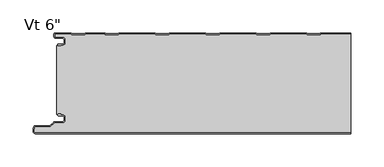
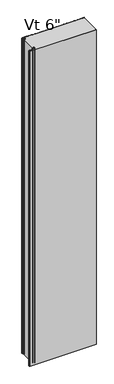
"""IFC4 building model written with IfcOpenShell, lengths in millimetres: plate geometry."""

from ifc_helpers import new_model, si_unit, point, frame, frame_2d, origin, origin_with_axes, place, context, project, spatial, polyline, circle_curve, trimmed, segment, composite_curve, outline, extrude, source, transform, mapped, element, save
from ifc_brep_helpers import plane_surface, cylinder_surface, revolved_surface, advanced_brep


def plate_05db5e8a(model_context):
    return source(origin(), model_context, "Body", "SolidModel", [
        advanced_brep(
        [(-219.9686911, -17.0015243, 2400.0), (-220.9686883, -18.0015275, 2400.0), (-219.9686911, -19.0015188, 2400.0), (-215.9684874, -19.0015188, 2400.0), (-215.9684874, -18.0015243, 2400.0), (-213.2762776, -18.0015243, 2400.0), (-209.9762819, -14.7015286, 2400.0), (-209.9762819, -10.3015374, 2400.0), (-213.2762774, -7.0015419, 2400.0), (-223.6962563, -7.0015419, 2400.0), (-225.4662505, -5.2315477, 2400.0), (-225.4662505, -1.0, 2400.0), (-200.9659739, -1.0, 2400.0), (-199.5803313, -2.2002391, 2400.0), (-180.205165, -2.2002391, 2400.0), (-178.819532, -1.0000084, 2400.0), (-150.1661166, -1.0000084, 2400.0), (-148.7804837, -2.2002391, 2400.0), (-129.4053174, -2.2002391, 2400.0), (-128.0196844, -1.0000084, 2400.0), (-73.966269, -1.0000084, 2400.0), (-72.5806361, -2.2002391, 2400.0), (-53.2054698, -2.2002391, 2400.0), (-51.8198368, -1.0000084, 2400.0), (2.2335786, -1.0000084, 2400.0), (3.6192115, -2.2002391, 2400.0), (22.9943778, -2.2002391, 2400.0), (24.3800108, -1.0000084, 2400.0), (78.4334262, -1.0000084, 2400.0), (79.8190591, -2.2002391, 2400.0), (99.1942254, -2.2002391, 2400.0), (100.5798584, -1.0000084, 2400.0), (154.6332738, -1.0000084, 2400.0), (156.0189067, -2.2002391, 2400.0), (175.394073, -2.2002391, 2400.0), (176.779706, -1.0000084, 2400.0), (221.9999998, -1.0000084, 2400.0), (221.9999998, -8.4e-06, 2400.0), (176.9288571, -8.4e-06, 2400.0), (176.0122402, -0.3417969, 2400.0), (175.0211926, -1.2002391, 2400.0), (156.3917872, -1.2002391, 2400.0), (155.4007395, -0.3417969, 2400.0), (154.4841226, -8.4e-06, 2400.0), (100.7290095, -8.4e-06, 2400.0), (99.8123926, -0.3417969, 2400.0), (98.821345, -1.2002391, 2400.0), (80.1919396, -1.2002391, 2400.0), (79.2008919, -0.3417969, 2400.0), (78.284275, -8.4e-06, 2400.0), (24.5291619, -8.4e-06, 2400.0), (23.612545, -0.3417969, 2400.0), (22.6214974, -1.2002391, 2400.0), (3.992092, -1.2002391, 2400.0), (3.0010443, -0.3417969, 2400.0), (2.0844274, -8.4e-06, 2400.0), (-51.6706857, -8.4e-06, 2400.0), (-52.5873026, -0.3417969, 2400.0), (-53.5783502, -1.2002391, 2400.0), (-72.2077556, -1.2002391, 2400.0), (-73.1988033, -0.3417969, 2400.0), (-74.1154202, -8.4e-06, 2400.0), (-127.8705333, -8.4e-06, 2400.0), (-128.7871502, -0.3417969, 2400.0), (-129.7781978, -1.2002391, 2400.0), (-148.4076032, -1.2002391, 2400.0), (-149.3986509, -0.3417969, 2400.0), (-150.3152678, -8.4e-06, 2400.0), (-178.6703809, -8.4e-06, 2400.0), (-179.5869978, -0.3417969, 2400.0), (-180.5780454, -1.2002391, 2400.0), (-199.2074508, -1.2002391, 2400.0), (-200.1984985, -0.3417969, 2400.0), (-201.1152068, -8.4e-06, 2400.0), (-225.0662544, 0.0, 2400.0), (-226.4662505, -1.3999962, 2400.0), (-226.4662505, -5.2315477, 2400.0), (-223.6962563, -8.0015419, 2400.0), (-213.2762774, -8.0015419, 2400.0), (-210.9762819, -10.3015374, 2400.0), (-210.9762819, -14.7015286, 2400.0), (-213.2762776, -17.0015243, 2400.0), (-219.9686911, -17.0015243, 0.0), (-213.2762776, -17.0015243, 0.0), (-210.9762819, -14.7015286, 0.0), (-210.9762819, -10.3015374, 0.0), (-213.2762774, -8.0015419, 0.0), (-223.6962563, -8.0015419, 0.0), (-226.4662505, -5.2315477, 0.0), (-226.4662505, -1.3999962, 0.0), (-225.0662544, 0.0, 0.0), (-201.1151154, 0.0, 0.0), (-200.1984985, -0.3417969, 0.0), (-199.2074508, -1.2002391, 0.0), (-180.5780454, -1.2002391, 0.0), (-179.5869978, -0.3417969, 0.0), (-178.6703809, -8.4e-06, 0.0), (-150.3152678, -8.4e-06, 0.0), (-149.3986509, -0.3417969, 0.0), (-148.4076032, -1.2002391, 0.0), (-129.7781978, -1.2002391, 0.0), (-128.7871502, -0.3417969, 0.0), (-127.8705333, -8.4e-06, 0.0), (-74.1154202, -8.4e-06, 0.0), (-73.1988033, -0.3417969, 0.0), (-72.2077556, -1.2002391, 0.0), (-53.5783502, -1.2002391, 0.0), (-52.5873026, -0.3417969, 0.0), (-51.6706857, -8.4e-06, 0.0), (2.0844274, -8.4e-06, 0.0), (3.0010443, -0.3417969, 0.0), (3.992092, -1.2002391, 0.0), (22.6214974, -1.2002391, 0.0), (23.612545, -0.3417969, 0.0), (24.5291619, -8.4e-06, 0.0), (78.284275, -8.4e-06, 0.0), (79.2008919, -0.3417969, 0.0), (80.1919396, -1.2002391, 0.0), (98.821345, -1.2002391, 0.0), (99.8123926, -0.3417969, 0.0), (100.7290095, -8.4e-06, 0.0), (154.4841226, -8.4e-06, 0.0), (155.4007395, -0.3417969, 0.0), (156.3917872, -1.2002391, 0.0), (175.0211926, -1.2002391, 0.0), (176.0122402, -0.3417969, 0.0), (176.9288571, -8.4e-06, 0.0), (221.9999998, -8.4e-06, 0.0), (221.9999998, -1.0000084, 0.0), (176.779706, -1.0000084, 0.0), (175.394073, -2.2002391, 0.0), (156.0189067, -2.2002391, 0.0), (154.6332738, -1.0000084, 0.0), (100.5798584, -1.0000084, 0.0), (99.1942254, -2.2002391, 0.0), (79.8190591, -2.2002391, 0.0), (78.4334262, -1.0000084, 0.0), (24.3800108, -1.0000084, 0.0), (22.9943778, -2.2002391, 0.0), (3.6192115, -2.2002391, 0.0), (2.2335786, -1.0000084, 0.0), (-51.8198368, -1.0000084, 0.0), (-53.2054698, -2.2002391, 0.0), (-72.5806361, -2.2002391, 0.0), (-73.966269, -1.0000084, 0.0), (-128.0196844, -1.0000084, 0.0), (-129.4053174, -2.2002391, 0.0), (-148.7804837, -2.2002391, 0.0), (-150.1661166, -1.0000084, 0.0), (-178.819532, -1.0000084, 0.0), (-180.205165, -2.2002391, 0.0), (-199.5803313, -2.2002391, 0.0), (-200.9659739, -1.0, 0.0), (-225.4662505, -1.0, 0.0), (-225.4662505, -5.2315477, 0.0), (-223.6962563, -7.0015419, 0.0), (-213.2762774, -7.0015419, 0.0), (-209.9762819, -10.3015374, 0.0), (-209.9762819, -14.7015286, 0.0), (-213.2762776, -18.0015243, 0.0), (-215.9684874, -18.0015243, 0.0), (-215.9684874, -19.0015188, 0.0), (-219.9686911, -19.0015188, 0.0), (-220.9686883, -18.0015275, 0.0)],
        [
            (0, 1, circle_curve(frame((-219.9686911, -18.0015215, 2400.0), z_axis=(0.0, 0.0, 1.0), x_axis=(1.0, 0.0, 0.0)), 0.9999973)),
            (1, 2, circle_curve(frame((-219.9686911, -18.0015216, 2400.0), z_axis=(0.0, 0.0, 1.0), x_axis=(1.0, 0.0, 0.0)), 0.9999972)),
            (2, 3),
            (3, 4),
            (4, 5),
            (5, 6, circle_curve(frame((-213.2762776, -14.7015286, 2400.0), z_axis=(0.0, 0.0, 1.0), x_axis=(1.0, 0.0, 0.0)), 3.2999957)),
            (6, 7),
            (7, 8, circle_curve(frame((-213.2762774, -10.3015374, 2400.0), z_axis=(0.0, 0.0, 1.0), x_axis=(1.0, 0.0, 0.0)), 3.2999955)),
            (8, 9),
            (9, 10, circle_curve(frame((-223.6962563, -5.2315477, 2400.0), z_axis=(0.0, 0.0, -1.0), x_axis=(1.0, 0.0, 0.0)), 1.7699942)),
            (10, 11),
            (11, 12),
            (12, 13),
            (13, 14),
            (14, 15),
            (15, 16),
            (16, 17),
            (17, 18),
            (18, 19),
            (19, 20),
            (20, 21),
            (21, 22),
            (22, 23),
            (23, 24),
            (24, 25),
            (25, 26),
            (26, 27),
            (27, 28),
            (28, 29),
            (29, 30),
            (30, 31),
            (31, 32),
            (32, 33),
            (33, 34),
            (34, 35),
            (35, 36),
            (36, 37),
            (37, 38),
            (38, 39, circle_curve(frame((176.9288571, -1.4000056, 2400.0), z_axis=(0.0, 0.0, 1.0), x_axis=(1.0, 0.0, 0.0)), 1.3999972)),
            (39, 40),
            (40, 41),
            (41, 42),
            (42, 43, circle_curve(frame((154.4841226, -1.4000056, 2400.0), z_axis=(0.0, 0.0, 1.0), x_axis=(1.0, 0.0, 0.0)), 1.3999972)),
            (43, 44),
            (44, 45, circle_curve(frame((100.7290095, -1.4000056, 2400.0), z_axis=(0.0, 0.0, 1.0), x_axis=(1.0, 0.0, 0.0)), 1.3999972)),
            (45, 46),
            (46, 47),
            (47, 48),
            (48, 49, circle_curve(frame((78.284275, -1.4000056, 2400.0), z_axis=(0.0, 0.0, 1.0), x_axis=(1.0, 0.0, 0.0)), 1.3999972)),
            (49, 50),
            (50, 51, circle_curve(frame((24.5291619, -1.4000056, 2400.0), z_axis=(0.0, 0.0, 1.0), x_axis=(1.0, 0.0, 0.0)), 1.3999972)),
            (51, 52),
            (52, 53),
            (53, 54),
            (54, 55, circle_curve(frame((2.0844274, -1.4000056, 2400.0), z_axis=(0.0, 0.0, 1.0), x_axis=(1.0, 0.0, 0.0)), 1.3999972)),
            (55, 56),
            (56, 57, circle_curve(frame((-51.6706857, -1.4000056, 2400.0), z_axis=(0.0, 0.0, 1.0), x_axis=(1.0, 0.0, 0.0)), 1.3999972)),
            (57, 58),
            (58, 59),
            (59, 60),
            (60, 61, circle_curve(frame((-74.1154202, -1.4000056, 2400.0), z_axis=(0.0, 0.0, 1.0), x_axis=(1.0, 0.0, 0.0)), 1.3999972)),
            (61, 62),
            (62, 63, circle_curve(frame((-127.8705333, -1.4000056, 2400.0), z_axis=(0.0, 0.0, 1.0), x_axis=(1.0, 0.0, 0.0)), 1.3999972)),
            (63, 64),
            (64, 65),
            (65, 66),
            (66, 67, circle_curve(frame((-150.3152678, -1.4000056, 2400.0), z_axis=(0.0, 0.0, 1.0), x_axis=(1.0, 0.0, 0.0)), 1.3999972)),
            (67, 68),
            (68, 69, circle_curve(frame((-178.6703809, -1.4000056, 2400.0), z_axis=(0.0, 0.0, 1.0), x_axis=(1.0, 0.0, 0.0)), 1.3999972)),
            (69, 70),
            (70, 71),
            (71, 72),
            (72, 73, circle_curve(frame((-201.1151154, -1.4000056, 2400.0), z_axis=(0.0, 0.0, 1.0), x_axis=(1.0, 0.0, 0.0)), 1.3999972)),
            (73, 74),
            (74, 75, circle_curve(frame((-225.0662544, -1.3999962, 2400.0), z_axis=(0.0, 0.0, 1.0), x_axis=(1.0, 0.0, 0.0)), 1.3999962)),
            (75, 76),
            (76, 77, circle_curve(frame((-223.6962563, -5.2315477, 2400.0), z_axis=(0.0, 0.0, 1.0), x_axis=(1.0, 0.0, 0.0)), 2.7699942)),
            (77, 78),
            (78, 79, circle_curve(frame((-213.2762774, -10.3015374, 2400.0), z_axis=(0.0, 0.0, -1.0), x_axis=(1.0, 0.0, 0.0)), 2.2999955)),
            (79, 80),
            (80, 81, circle_curve(frame((-213.2762776, -14.7015286, 2400.0), z_axis=(0.0, 0.0, -1.0), x_axis=(1.0, 0.0, 0.0)), 2.2999957)),
            (81, 0),
            (82, 83),
            (83, 84, circle_curve(frame((-213.2762776, -14.7015286, 0.0), z_axis=(0.0, 0.0, 1.0), x_axis=(1.0, 0.0, 0.0)), 2.2999957)),
            (84, 85),
            (85, 86, circle_curve(frame((-213.2762774, -10.3015374, 0.0), z_axis=(0.0, 0.0, 1.0), x_axis=(1.0, 0.0, 0.0)), 2.2999955)),
            (86, 87),
            (87, 88, circle_curve(frame((-223.6962563, -5.2315477, 0.0), z_axis=(0.0, 0.0, -1.0), x_axis=(1.0, 0.0, 0.0)), 2.7699942)),
            (88, 89),
            (89, 90, circle_curve(frame((-225.0662544, -1.3999962, 0.0), z_axis=(0.0, 0.0, -1.0), x_axis=(1.0, 0.0, 0.0)), 1.3999962)),
            (90, 91),
            (91, 92, circle_curve(frame((-201.1151154, -1.4000056, 0.0), z_axis=(0.0, 0.0, -1.0), x_axis=(1.0, 0.0, 0.0)), 1.3999972)),
            (92, 93),
            (93, 94),
            (94, 95),
            (95, 96, circle_curve(frame((-178.6703809, -1.4000056, 0.0), z_axis=(0.0, 0.0, -1.0), x_axis=(1.0, 0.0, 0.0)), 1.3999972)),
            (96, 97),
            (97, 98, circle_curve(frame((-150.3152678, -1.4000056, 0.0), z_axis=(0.0, 0.0, -1.0), x_axis=(1.0, 0.0, 0.0)), 1.3999972)),
            (98, 99),
            (99, 100),
            (100, 101),
            (101, 102, circle_curve(frame((-127.8705333, -1.4000056, 0.0), z_axis=(0.0, 0.0, -1.0), x_axis=(1.0, 0.0, 0.0)), 1.3999972)),
            (102, 103),
            (103, 104, circle_curve(frame((-74.1154202, -1.4000056, 0.0), z_axis=(0.0, 0.0, -1.0), x_axis=(1.0, 0.0, 0.0)), 1.3999972)),
            (104, 105),
            (105, 106),
            (106, 107),
            (107, 108, circle_curve(frame((-51.6706857, -1.4000056, 0.0), z_axis=(0.0, 0.0, -1.0), x_axis=(1.0, 0.0, 0.0)), 1.3999972)),
            (108, 109),
            (109, 110, circle_curve(frame((2.0844274, -1.4000056, 0.0), z_axis=(0.0, 0.0, -1.0), x_axis=(1.0, 0.0, 0.0)), 1.3999972)),
            (110, 111),
            (111, 112),
            (112, 113),
            (113, 114, circle_curve(frame((24.5291619, -1.4000056, 0.0), z_axis=(0.0, 0.0, -1.0), x_axis=(1.0, 0.0, 0.0)), 1.3999972)),
            (114, 115),
            (115, 116, circle_curve(frame((78.284275, -1.4000056, 0.0), z_axis=(0.0, 0.0, -1.0), x_axis=(1.0, 0.0, 0.0)), 1.3999972)),
            (116, 117),
            (117, 118),
            (118, 119),
            (119, 120, circle_curve(frame((100.7290095, -1.4000056, 0.0), z_axis=(0.0, 0.0, -1.0), x_axis=(1.0, 0.0, 0.0)), 1.3999972)),
            (120, 121),
            (121, 122, circle_curve(frame((154.4841226, -1.4000056, 0.0), z_axis=(0.0, 0.0, -1.0), x_axis=(1.0, 0.0, 0.0)), 1.3999972)),
            (122, 123),
            (123, 124),
            (124, 125),
            (125, 126, circle_curve(frame((176.9288571, -1.4000056, 0.0), z_axis=(0.0, 0.0, -1.0), x_axis=(1.0, 0.0, 0.0)), 1.3999972)),
            (126, 127),
            (127, 128),
            (128, 129),
            (129, 130),
            (130, 131),
            (131, 132),
            (132, 133),
            (133, 134),
            (134, 135),
            (135, 136),
            (136, 137),
            (137, 138),
            (138, 139),
            (139, 140),
            (140, 141),
            (141, 142),
            (142, 143),
            (143, 144),
            (144, 145),
            (145, 146),
            (146, 147),
            (147, 148),
            (148, 149),
            (149, 150),
            (150, 151),
            (151, 152),
            (152, 153),
            (153, 154),
            (154, 155, circle_curve(frame((-223.6962563, -5.2315477, 0.0), z_axis=(0.0, 0.0, 1.0), x_axis=(1.0, 0.0, 0.0)), 1.7699942)),
            (155, 156),
            (156, 157, circle_curve(frame((-213.2762774, -10.3015374, 0.0), z_axis=(0.0, 0.0, -1.0), x_axis=(1.0, 0.0, 0.0)), 3.2999955)),
            (157, 158),
            (158, 159, circle_curve(frame((-213.2762776, -14.7015286, 0.0), z_axis=(0.0, 0.0, -1.0), x_axis=(1.0, 0.0, 0.0)), 3.2999957)),
            (159, 160),
            (160, 161),
            (161, 162),
            (162, 163, circle_curve(frame((-219.9686911, -18.0015216, 0.0), z_axis=(0.0, 0.0, -1.0), x_axis=(1.0, 0.0, 0.0)), 0.9999972)),
            (163, 82, circle_curve(frame((-219.9686911, -18.0015215, 0.0), z_axis=(0.0, 0.0, -1.0), x_axis=(1.0, 0.0, 0.0)), 0.9999973)),
            (36, 128),
            (127, 37),
            (81, 83),
            (82, 0),
            (80, 84),
            (79, 85),
            (78, 86),
            (77, 87),
            (76, 88),
            (75, 89),
            (74, 90),
            (73, 91),
            (72, 92),
            (71, 93),
            (70, 94),
            (69, 95),
            (68, 96),
            (67, 97),
            (66, 98),
            (65, 99),
            (64, 100),
            (63, 101),
            (62, 102),
            (61, 103),
            (60, 104),
            (59, 105),
            (58, 106),
            (57, 107),
            (56, 108),
            (55, 109),
            (54, 110),
            (53, 111),
            (52, 112),
            (51, 113),
            (50, 114),
            (49, 115),
            (48, 116),
            (47, 117),
            (46, 118),
            (45, 119),
            (44, 120),
            (43, 121),
            (42, 122),
            (41, 123),
            (40, 124),
            (39, 125),
            (38, 126),
            (35, 129),
            (34, 130),
            (33, 131),
            (32, 132),
            (31, 133),
            (30, 134),
            (29, 135),
            (28, 136),
            (27, 137),
            (26, 138),
            (25, 139),
            (24, 140),
            (23, 141),
            (22, 142),
            (21, 143),
            (20, 144),
            (19, 145),
            (18, 146),
            (17, 147),
            (16, 148),
            (15, 149),
            (14, 150),
            (13, 151),
            (12, 152),
            (11, 153),
            (10, 154),
            (9, 155),
            (8, 156),
            (7, 157),
            (6, 158),
            (5, 159),
            (4, 160),
            (3, 161),
            (2, 162),
            (1, 163),
        ],
        [
            plane_surface(frame((286.0000002, -8.4e-06, 2400.0), z_axis=(0.0, 0.0, 1.0), x_axis=(0.0, 1.0, 0.0))),
            plane_surface(frame((286.0000002, -8.4e-06, 0.0), z_axis=(0.0, 0.0, -1.0), x_axis=(0.0, 1.0, 0.0))),
            plane_surface(frame((221.9999998, -162.4000084, 2400.0), z_axis=(1.0, 0.0, 0.0), x_axis=(0.0, 0.0, -1.0))),
            plane_surface(frame((-219.9686911, -17.0015243, 2400.0), z_axis=(0.0, 1.0, 0.0), x_axis=(0.0, 0.0, -1.0))),
            revolved_surface(polyline([(-210.97628189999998, -14.7015286, 0.0), (-210.97628189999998, -14.7015286, 2400.0)]), (-213.2762776, -14.7015286, 2400.0), (0.0, 0.0, -1.0)),
            plane_surface(frame((-210.9762819, -14.7015286, 2400.0), z_axis=(-1.0, 0.0, 0.0), x_axis=(0.0, 0.0, -1.0))),
            revolved_surface(polyline([(-210.9762819, -10.3015374, 0.0), (-210.9762819, -10.3015374, 2400.0)]), (-213.2762774, -10.3015374, 2400.0), (0.0, 0.0, -1.0)),
            plane_surface(frame((-213.2762774, -8.0015419, 2400.0), z_axis=(0.0, -1.0, 0.0), x_axis=(0.0, 0.0, -1.0))),
            cylinder_surface(frame((-223.6962563, -5.2315477, 2400.0), z_axis=(0.0, 0.0, 1.0), x_axis=(1.0, 0.0, 0.0)), 2.7699942),
            plane_surface(frame((-226.4662505, -5.2315477, 2400.0), z_axis=(-1.0, 0.0, 0.0), x_axis=(0.0, 0.0, -1.0))),
            cylinder_surface(frame((-225.0662544, -1.3999962, 2400.0), z_axis=(0.0, 0.0, 1.0), x_axis=(1.0, 0.0, 0.0)), 1.3999962),
            plane_surface(frame((-225.0662544, 0.0, 2400.0), z_axis=(0.0, 1.0, 0.0), x_axis=(0.0, 0.0, -1.0))),
            cylinder_surface(frame((-201.1151154, -1.4000056, 2400.0), z_axis=(0.0, 0.0, 1.0), x_axis=(1.0, 0.0, 0.0)), 1.3999972),
            plane_surface(frame((-200.1984985, -0.3417969, 2400.0), z_axis=(0.6547276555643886, 0.755864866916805, 0.0), x_axis=(0.0, 0.0, -1.0))),
            plane_surface(frame((-189.8927481, -1.2002391, 2400.0), z_axis=(0.0, 1.0, 0.0), x_axis=(0.0, 0.0, -1.0))),
            plane_surface(frame((-180.5780454, -1.2002391, 2400.0), z_axis=(-0.6547276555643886, 0.755864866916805, 0.0), x_axis=(0.0, 0.0, -1.0))),
            cylinder_surface(frame((-178.6703809, -1.4000056, 2400.0), z_axis=(0.0, 0.0, 1.0), x_axis=(1.0, 0.0, 0.0)), 1.3999972),
            plane_surface(frame((-178.6703809, -8.4e-06, 2400.0), z_axis=(0.0, 1.0, 0.0), x_axis=(0.0, 0.0, -1.0))),
            cylinder_surface(frame((-150.3152678, -1.4000056, 2400.0), z_axis=(0.0, 0.0, 1.0), x_axis=(1.0, 0.0, 0.0)), 1.3999972),
            plane_surface(frame((-149.3986509, -0.3417969, 2400.0), z_axis=(0.6547276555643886, 0.755864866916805, 0.0), x_axis=(0.0, 0.0, -1.0))),
            plane_surface(frame((-139.0929005, -1.2002391, 2400.0), z_axis=(0.0, 1.0, 0.0), x_axis=(0.0, 0.0, -1.0))),
            plane_surface(frame((-129.7781978, -1.2002391, 2400.0), z_axis=(-0.6547276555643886, 0.755864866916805, 0.0), x_axis=(0.0, 0.0, -1.0))),
            cylinder_surface(frame((-127.8705333, -1.4000056, 2400.0), z_axis=(0.0, 0.0, 1.0), x_axis=(1.0, 0.0, 0.0)), 1.3999972),
            plane_surface(frame((-127.8705333, -8.4e-06, 2400.0), z_axis=(0.0, 1.0, 0.0), x_axis=(0.0, 0.0, -1.0))),
            cylinder_surface(frame((-74.1154202, -1.4000056, 2400.0), z_axis=(0.0, 0.0, 1.0), x_axis=(1.0, 0.0, 0.0)), 1.3999972),
            plane_surface(frame((-73.1988033, -0.3417969, 2400.0), z_axis=(0.6547276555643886, 0.755864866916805, 0.0), x_axis=(0.0, 0.0, -1.0))),
            plane_surface(frame((-62.8930529, -1.2002391, 2400.0), z_axis=(0.0, 1.0, 0.0), x_axis=(0.0, 0.0, -1.0))),
            plane_surface(frame((-53.5783502, -1.2002391, 2400.0), z_axis=(-0.6547276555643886, 0.755864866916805, 0.0), x_axis=(0.0, 0.0, -1.0))),
            cylinder_surface(frame((-51.6706857, -1.4000056, 2400.0), z_axis=(0.0, 0.0, 1.0), x_axis=(1.0, 0.0, 0.0)), 1.3999972),
            plane_surface(frame((-51.6706857, -8.4e-06, 2400.0), z_axis=(0.0, 1.0, 0.0), x_axis=(0.0, 0.0, -1.0))),
            cylinder_surface(frame((2.0844274, -1.4000056, 2400.0), z_axis=(0.0, 0.0, 1.0), x_axis=(1.0, 0.0, 0.0)), 1.3999972),
            plane_surface(frame((3.0010443, -0.3417969, 2400.0), z_axis=(0.6547276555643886, 0.755864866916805, 0.0), x_axis=(0.0, 0.0, -1.0))),
            plane_surface(frame((13.3067947, -1.2002391, 2400.0), z_axis=(0.0, 1.0, 0.0), x_axis=(0.0, 0.0, -1.0))),
            plane_surface(frame((22.6214974, -1.2002391, 2400.0), z_axis=(-0.6547276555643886, 0.755864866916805, 0.0), x_axis=(0.0, 0.0, -1.0))),
            cylinder_surface(frame((24.5291619, -1.4000056, 2400.0), z_axis=(0.0, 0.0, 1.0), x_axis=(1.0, 0.0, 0.0)), 1.3999972),
            plane_surface(frame((24.5291619, -8.4e-06, 2400.0), z_axis=(0.0, 1.0, 0.0), x_axis=(0.0, 0.0, -1.0))),
            cylinder_surface(frame((78.284275, -1.4000056, 2400.0), z_axis=(0.0, 0.0, 1.0), x_axis=(1.0, 0.0, 0.0)), 1.3999972),
            plane_surface(frame((79.2008919, -0.3417969, 2400.0), z_axis=(0.6547276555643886, 0.755864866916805, 0.0), x_axis=(0.0, 0.0, -1.0))),
            plane_surface(frame((89.5066423, -1.2002391, 2400.0), z_axis=(0.0, 1.0, 0.0), x_axis=(0.0, 0.0, -1.0))),
            plane_surface(frame((98.821345, -1.2002391, 2400.0), z_axis=(-0.6547276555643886, 0.755864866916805, 0.0), x_axis=(0.0, 0.0, -1.0))),
            cylinder_surface(frame((100.7290095, -1.4000056, 2400.0), z_axis=(0.0, 0.0, 1.0), x_axis=(1.0, 0.0, 0.0)), 1.3999972),
            plane_surface(frame((100.7290095, -8.4e-06, 2400.0), z_axis=(0.0, 1.0, 0.0), x_axis=(0.0, 0.0, -1.0))),
            cylinder_surface(frame((154.4841226, -1.4000056, 2400.0), z_axis=(0.0, 0.0, 1.0), x_axis=(1.0, 0.0, 0.0)), 1.3999972),
            plane_surface(frame((155.4007395, -0.3417969, 2400.0), z_axis=(0.6547276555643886, 0.755864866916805, 0.0), x_axis=(0.0, 0.0, -1.0))),
            plane_surface(frame((165.7064899, -1.2002391, 2400.0), z_axis=(0.0, 1.0, 0.0), x_axis=(0.0, 0.0, -1.0))),
            plane_surface(frame((175.0211926, -1.2002391, 2400.0), z_axis=(-0.6547276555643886, 0.755864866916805, 0.0), x_axis=(0.0, 0.0, -1.0))),
            cylinder_surface(frame((176.9288571, -1.4000056, 2400.0), z_axis=(0.0, 0.0, 1.0), x_axis=(1.0, 0.0, 0.0)), 1.3999972),
            plane_surface(frame((176.9288571, -8.4e-06, 2400.0), z_axis=(0.0, 1.0, 0.0), x_axis=(0.0, 0.0, -1.0))),
            plane_surface(frame((230.8331214, -1.0000084, 2400.0), z_axis=(0.0, -1.0, 0.0), x_axis=(0.0, 0.0, -1.0))),
            plane_surface(frame((176.779706, -1.0000084, 2400.0), z_axis=(0.6547276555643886, -0.755864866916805, 0.0), x_axis=(0.0, 0.0, -1.0))),
            plane_surface(frame((175.394073, -2.2002391, 2400.0), z_axis=(0.0, -1.0, 0.0), x_axis=(0.0, 0.0, -1.0))),
            plane_surface(frame((156.0189067, -2.2002391, 2400.0), z_axis=(-0.6547276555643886, -0.755864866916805, 0.0), x_axis=(0.0, 0.0, -1.0))),
            plane_surface(frame((154.6332738, -1.0000084, 2400.0), z_axis=(0.0, -1.0, 0.0), x_axis=(0.0, 0.0, -1.0))),
            plane_surface(frame((100.5798584, -1.0000084, 2400.0), z_axis=(0.6547276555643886, -0.755864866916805, 0.0), x_axis=(0.0, 0.0, -1.0))),
            plane_surface(frame((99.1942254, -2.2002391, 2400.0), z_axis=(0.0, -1.0, 0.0), x_axis=(0.0, 0.0, -1.0))),
            plane_surface(frame((79.8190591, -2.2002391, 2400.0), z_axis=(-0.6547276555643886, -0.755864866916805, 0.0), x_axis=(0.0, 0.0, -1.0))),
            plane_surface(frame((78.4334262, -1.0000084, 2400.0), z_axis=(0.0, -1.0, 0.0), x_axis=(0.0, 0.0, -1.0))),
            plane_surface(frame((24.3800108, -1.0000084, 2400.0), z_axis=(0.6547276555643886, -0.755864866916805, 0.0), x_axis=(0.0, 0.0, -1.0))),
            plane_surface(frame((22.9943778, -2.2002391, 2400.0), z_axis=(0.0, -1.0, 0.0), x_axis=(0.0, 0.0, -1.0))),
            plane_surface(frame((3.6192115, -2.2002391, 2400.0), z_axis=(-0.6547276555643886, -0.755864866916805, 0.0), x_axis=(0.0, 0.0, -1.0))),
            plane_surface(frame((2.2335786, -1.0000084, 2400.0), z_axis=(0.0, -1.0, 0.0), x_axis=(0.0, 0.0, -1.0))),
            plane_surface(frame((-51.8198368, -1.0000084, 2400.0), z_axis=(0.6547276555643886, -0.755864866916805, 0.0), x_axis=(0.0, 0.0, -1.0))),
            plane_surface(frame((-53.2054698, -2.2002391, 2400.0), z_axis=(0.0, -1.0, 0.0), x_axis=(0.0, 0.0, -1.0))),
            plane_surface(frame((-72.5806361, -2.2002391, 2400.0), z_axis=(-0.6547276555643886, -0.755864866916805, 0.0), x_axis=(0.0, 0.0, -1.0))),
            plane_surface(frame((-73.966269, -1.0000084, 2400.0), z_axis=(0.0, -1.0, 0.0), x_axis=(0.0, 0.0, -1.0))),
            plane_surface(frame((-128.0196844, -1.0000084, 2400.0), z_axis=(0.6547276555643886, -0.755864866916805, 0.0), x_axis=(0.0, 0.0, -1.0))),
            plane_surface(frame((-129.4053174, -2.2002391, 2400.0), z_axis=(0.0, -1.0, 0.0), x_axis=(0.0, 0.0, -1.0))),
            plane_surface(frame((-148.7804837, -2.2002391, 2400.0), z_axis=(-0.6547276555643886, -0.755864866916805, 0.0), x_axis=(0.0, 0.0, -1.0))),
            plane_surface(frame((-150.1661166, -1.0000084, 2400.0), z_axis=(0.0, -1.0, 0.0), x_axis=(0.0, 0.0, -1.0))),
            plane_surface(frame((-178.819532, -1.0000084, 2400.0), z_axis=(0.6547276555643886, -0.755864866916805, 0.0), x_axis=(0.0, 0.0, -1.0))),
            plane_surface(frame((-180.205165, -2.2002391, 2400.0), z_axis=(0.0, -1.0, 0.0), x_axis=(0.0, 0.0, -1.0))),
            plane_surface(frame((-199.5803313, -2.2002391, 2400.0), z_axis=(-0.6547276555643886, -0.755864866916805, 0.0), x_axis=(0.0, 0.0, -1.0))),
            plane_surface(frame((-200.9659739, -1.0, 2400.0), z_axis=(0.0, -1.0, 0.0), x_axis=(0.0, 0.0, -1.0))),
            plane_surface(frame((-225.4662505, -1.0, 2400.0), z_axis=(1.0, 0.0, 0.0), x_axis=(0.0, 0.0, -1.0))),
            revolved_surface(polyline([(-221.92626209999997, -5.2315477, 0.0), (-221.92626209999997, -5.2315477, 2400.0)]), (-223.6962563, -5.2315477, 2400.0), (0.0, 0.0, -1.0)),
            plane_surface(frame((-223.6962563, -7.0015419, 2400.0), z_axis=(0.0, 1.0, 0.0), x_axis=(0.0, 0.0, -1.0))),
            cylinder_surface(frame((-213.2762774, -10.3015374, 2400.0), z_axis=(0.0, 0.0, 1.0), x_axis=(1.0, 0.0, 0.0)), 3.2999955),
            plane_surface(frame((-209.9762819, -10.3015374, 2400.0), z_axis=(1.0, 0.0, 0.0), x_axis=(0.0, 0.0, -1.0))),
            cylinder_surface(frame((-213.2762776, -14.7015286, 2400.0), z_axis=(0.0, 0.0, 1.0), x_axis=(1.0, 0.0, 0.0)), 3.2999957),
            plane_surface(frame((-213.2762776, -18.0015243, 2400.0), z_axis=(0.0, -1.0, 0.0), x_axis=(0.0, 0.0, -1.0))),
            plane_surface(frame((-215.9684874, -18.0015243, 2400.0), z_axis=(1.0, 0.0, 0.0), x_axis=(0.0, 0.0, -1.0))),
            plane_surface(frame((-215.9684874, -19.0015188, 2400.0), z_axis=(0.0, -1.0, 0.0), x_axis=(0.0, 0.0, -1.0))),
            cylinder_surface(frame((-219.9686911, -18.0015216, 2400.0), z_axis=(0.0, 0.0, 1.0), x_axis=(1.0, 0.0, 0.0)), 0.9999972),
            cylinder_surface(frame((-219.9686911, -18.0015215, 2400.0), z_axis=(0.0, 0.0, 1.0), x_axis=(1.0, 0.0, 0.0)), 0.9999973),
        ],
        [
            (0, [[1, 2, 3, 4, 5, 6, 7, 8, 9, 10, 11, 12, 13, 14, 15, 16, 17, 18, 19, 20, 21, 22, 23, 24, 25, 26, 27, 28, 29, 30, 31, 32, 33, 34, 35, 36, 37, 38, 39, 40, 41, 42, 43, 44, 45, 46, 47, 48, 49, 50, 51, 52, 53, 54, 55, 56, 57, 58, 59, 60, 61, 62, 63, 64, 65, 66, 67, 68, 69, 70, 71, 72, 73, 74, 75, 76, 77, 78, 79, 80, 81, 82]]),
            (1, [[83, 84, 85, 86, 87, 88, 89, 90, 91, 92, 93, 94, 95, 96, 97, 98, 99, 100, 101, 102, 103, 104, 105, 106, 107, 108, 109, 110, 111, 112, 113, 114, 115, 116, 117, 118, 119, 120, 121, 122, 123, 124, 125, 126, 127, 128, 129, 130, 131, 132, 133, 134, 135, 136, 137, 138, 139, 140, 141, 142, 143, 144, 145, 146, 147, 148, 149, 150, 151, 152, 153, 154, 155, 156, 157, 158, 159, 160, 161, 162, 163, 164]]),
            (2, [[165, -128, 166, -37]]),
            (3, [[167, -83, 168, -82]]),
            (4, [[169, -84, -167, -81]]),
            (5, [[170, -85, -169, -80]]),
            (6, [[171, -86, -170, -79]]),
            (7, [[172, -87, -171, -78]]),
            (8, [[173, -88, -172, -77]]),
            (9, [[174, -89, -173, -76]]),
            (10, [[175, -90, -174, -75]]),
            (11, [[176, -91, -175, -74]]),
            (12, [[177, -92, -176, -73]]),
            (13, [[178, -93, -177, -72]]),
            (14, [[179, -94, -178, -71]]),
            (15, [[180, -95, -179, -70]]),
            (16, [[181, -96, -180, -69]]),
            (17, [[182, -97, -181, -68]]),
            (18, [[183, -98, -182, -67]]),
            (19, [[184, -99, -183, -66]]),
            (20, [[185, -100, -184, -65]]),
            (21, [[186, -101, -185, -64]]),
            (22, [[187, -102, -186, -63]]),
            (23, [[188, -103, -187, -62]]),
            (24, [[189, -104, -188, -61]]),
            (25, [[190, -105, -189, -60]]),
            (26, [[191, -106, -190, -59]]),
            (27, [[192, -107, -191, -58]]),
            (28, [[193, -108, -192, -57]]),
            (29, [[194, -109, -193, -56]]),
            (30, [[195, -110, -194, -55]]),
            (31, [[196, -111, -195, -54]]),
            (32, [[197, -112, -196, -53]]),
            (33, [[198, -113, -197, -52]]),
            (34, [[199, -114, -198, -51]]),
            (35, [[200, -115, -199, -50]]),
            (36, [[201, -116, -200, -49]]),
            (37, [[202, -117, -201, -48]]),
            (38, [[203, -118, -202, -47]]),
            (39, [[204, -119, -203, -46]]),
            (40, [[205, -120, -204, -45]]),
            (41, [[206, -121, -205, -44]]),
            (42, [[207, -122, -206, -43]]),
            (43, [[208, -123, -207, -42]]),
            (44, [[209, -124, -208, -41]]),
            (45, [[210, -125, -209, -40]]),
            (46, [[211, -126, -210, -39]]),
            (47, [[-38, -166, -127, -211]]),
            (48, [[-129, -165, -36, 212]]),
            (49, [[213, -130, -212, -35]]),
            (50, [[214, -131, -213, -34]]),
            (51, [[215, -132, -214, -33]]),
            (52, [[216, -133, -215, -32]]),
            (53, [[217, -134, -216, -31]]),
            (54, [[218, -135, -217, -30]]),
            (55, [[219, -136, -218, -29]]),
            (56, [[220, -137, -219, -28]]),
            (57, [[221, -138, -220, -27]]),
            (58, [[222, -139, -221, -26]]),
            (59, [[223, -140, -222, -25]]),
            (60, [[224, -141, -223, -24]]),
            (61, [[225, -142, -224, -23]]),
            (62, [[226, -143, -225, -22]]),
            (63, [[227, -144, -226, -21]]),
            (64, [[228, -145, -227, -20]]),
            (65, [[229, -146, -228, -19]]),
            (66, [[230, -147, -229, -18]]),
            (67, [[231, -148, -230, -17]]),
            (68, [[232, -149, -231, -16]]),
            (69, [[233, -150, -232, -15]]),
            (70, [[234, -151, -233, -14]]),
            (71, [[235, -152, -234, -13]]),
            (72, [[236, -153, -235, -12]]),
            (73, [[237, -154, -236, -11]]),
            (74, [[238, -155, -237, -10]]),
            (75, [[239, -156, -238, -9]]),
            (76, [[240, -157, -239, -8]]),
            (77, [[241, -158, -240, -7]]),
            (78, [[242, -159, -241, -6]]),
            (79, [[243, -160, -242, -5]]),
            (80, [[244, -161, -243, -4]]),
            (81, [[245, -162, -244, -3]]),
            (82, [[246, -163, -245, -2]]),
            (83, [[-168, -164, -246, -1]]),
        ],
    ),
        extrude(outline(composite_curve([segment(polyline([(-258.0087619, -148.5184987), (-257.5690674, -143.4944521)]), True, "CONTINUOUS"), segment(trimmed(circle_curve(frame_2d((-253.9198391, -144.1052532)), 3.6999926), [point((-257.5690674, -143.4944521))], [point((-253.9198391, -140.4052606))], False, "CARTESIAN"), True, "CONTINUOUS"), segment(polyline([(-253.9198391, -140.4052606), (-232.7773995, -140.4052606)]), True, "CONTINUOUS"), segment(trimmed(circle_curve(frame_2d((-232.7773995, -139.1052632)), 1.2999974), [point((-232.7773995, -140.4052606))], [point((-231.8581626, -140.0245001))], True, "CARTESIAN"), True, "CONTINUOUS"), segment(polyline([(-231.8581626, -140.0245001), (-227.0297451, -135.1960827)]), True, "CONTINUOUS"), segment(trimmed(circle_curve(frame_2d((-225.1205606, -137.1052672)), 2.6999946), [point((-227.0297451, -135.1960827))], [point((-225.1205606, -134.4052726))], False, "CARTESIAN"), True, "CONTINUOUS"), segment(polyline([(-225.1205606, -134.4052726), (-213.3096715, -134.4052726)]), True, "CONTINUOUS"), segment(trimmed(circle_curve(frame_2d((-213.3096715, -132.0552773)), 2.3499953), [point((-213.3096715, -134.4052726))], [point((-210.9596762, -132.0552773))], True, "CARTESIAN"), True, "CONTINUOUS"), segment(polyline([(-210.9596762, -132.0552773), (-210.9596762, -127.6552861)]), True, "CONTINUOUS"), segment(trimmed(circle_curve(frame_2d((-213.3096715, -127.6552861)), 2.3499953), [point((-210.9596762, -127.6552861))], [point((-213.3096715, -125.3052908))], True, "CARTESIAN"), True, "CONTINUOUS"), segment(polyline([(-213.3096715, -125.3052908), (-219.8289777, -125.3052908)]), True, "CONTINUOUS"), segment(trimmed(circle_curve(frame_2d((-219.7686906, -124.1068085)), 1.1999976), [point((-219.8289777, -125.3052908))], [point((-220.9683, -124.0762866))], False, "CARTESIAN"), True, "CONTINUOUS"), segment(trimmed(circle_curve(frame_2d((-219.7686906, -124.1068085)), 1.1999976), [point((-220.9683, -124.0762866))], [point((-219.767176, -122.9068119))], False, "CARTESIAN"), True, "CONTINUOUS"), segment(polyline([(-219.767176, -122.9068119), (-216.0087826, -122.9068119), (-216.0087826, -124.3052908), (-213.3096715, -124.3052908)]), True, "CONTINUOUS"), segment(trimmed(circle_curve(frame_2d((-213.3096715, -127.6552861)), 3.3499953), [point((-213.3096715, -124.3052908))], [point((-209.9596762, -127.6552861))], False, "CARTESIAN"), True, "CONTINUOUS"), segment(polyline([(-209.9596762, -127.6552861), (-209.9596762, -132.0552773)]), True, "CONTINUOUS"), segment(trimmed(circle_curve(frame_2d((-213.3096715, -132.0552773)), 3.3499953), [point((-209.9596762, -132.0552773))], [point((-213.3096715, -135.4052726))], False, "CARTESIAN"), True, "CONTINUOUS"), segment(polyline([(-213.3096715, -135.4052726), (-225.1205606, -135.4052726)]), True, "CONTINUOUS"), segment(trimmed(circle_curve(frame_2d((-225.1205606, -137.1052672)), 1.6999946), [point((-225.1205606, -135.4052726))], [point((-226.3226383, -135.9031895))], True, "CARTESIAN"), True, "CONTINUOUS"), segment(polyline([(-226.3226383, -135.9031895), (-231.8247094, -141.4052606), (-253.9198391, -141.4052606)]), True, "CONTINUOUS"), segment(trimmed(circle_curve(frame_2d((-253.9198391, -144.1052532)), 2.6999926), [point((-253.9198391, -141.4052606))], [point((-256.5765707, -143.6238626))], True, "CARTESIAN"), True, "CONTINUOUS"), segment(polyline([(-256.5765707, -143.6238626), (-257.0125697, -148.6056834)]), True, "CONTINUOUS"), segment(trimmed(circle_curve(frame_2d((-254.4521175, -148.8297691)), 2.5702393), [point((-257.0125697, -148.6056834))], [point((-254.5094458, -151.3993689))], True, "CARTESIAN"), True, "CONTINUOUS"), segment(polyline([(-254.5094458, -151.3993689), (221.9999998, -151.3993689), (221.9999998, -152.3997037), (-254.4521152, -152.4000084)]), True, "CONTINUOUS"), segment(trimmed(circle_curve(frame_2d((-254.4521175, -148.8297691)), 3.5702393), [point((-254.4521152, -152.4000084))], [point((-258.0087619, -148.5184987))], False, "CARTESIAN"), True, "CONTINUOUS")], self_intersect=False)), origin_with_axes(), (0.0, 0.0, 1.0), 2400.0),
        advanced_brep(
        [(-220.9683, -124.0708833, 2400.0), (-219.767176, -122.9014086, 2400.0), (-216.0087826, -122.9014086, 2400.0), (-216.0087826, -124.2998875, 2400.0), (-213.3096715, -124.2998875, 2400.0), (-209.9596762, -127.6498828, 2400.0), (-209.9596762, -132.049874, 2400.0), (-213.3096715, -135.3998693, 2400.0), (-225.1205606, -135.3998693, 2400.0), (-226.3226383, -135.8977862, 2400.0), (-231.8247094, -141.3998573, 2400.0), (-253.9198391, -141.3998573, 2400.0), (-256.5765707, -143.6184593, 2400.0), (-257.0125697, -148.6002802, 2400.0), (-254.4521175, -151.3946051, 2400.0), (221.9999998, -151.4000084, 2400.0), (221.9999998, -1.0000084, 2400.0), (176.779706, -1.0000084, 2400.0), (175.3940731, -2.2002391, 2400.0), (156.0189068, -2.2002391, 2400.0), (154.6332738, -1.0000084, 2400.0), (100.5798584, -1.0000084, 2400.0), (99.1942255, -2.2002391, 2400.0), (79.8190592, -2.2002391, 2400.0), (78.4334262, -1.0000084, 2400.0), (24.3800108, -1.0000084, 2400.0), (22.9943779, -2.2002391, 2400.0), (3.6192116, -2.2002391, 2400.0), (2.2335786, -1.0000084, 2400.0), (-51.8198368, -1.0000084, 2400.0), (-53.2054697, -2.2002391, 2400.0), (-72.580636, -2.2002391, 2400.0), (-73.966269, -1.0000084, 2400.0), (-128.0196844, -1.0000084, 2400.0), (-129.4053173, -2.2002391, 2400.0), (-148.7804836, -2.2002391, 2400.0), (-150.1661166, -1.0000084, 2400.0), (-178.819532, -1.0000084, 2400.0), (-180.2051649, -2.2002391, 2400.0), (-199.5803312, -2.2002391, 2400.0), (-200.9659738, -1.0, 2400.0), (-225.4662505, -1.0, 2400.0), (-225.4662505, -5.2315473, 2400.0), (-223.6962563, -7.0015415, 2400.0), (-213.2762777, -7.0015415, 2400.0), (-209.9762819, -10.3015374, 2400.0), (-209.9762819, -14.7015286, 2400.0), (-213.2762776, -18.0015243, 2400.0), (-215.9684874, -18.0015243, 2400.0), (-215.9684874, -19.0015188, 2400.0), (-219.968691, -19.0015188, 2400.0), (-220.9686882, -18.0015275, 2400.0), (-221.9999998, -19.0328392, 2400.0), (-221.9999998, -123.0391835, 2400.0), (-220.9683, -124.0708833, 0.0), (-221.9999998, -123.0391835, 0.0), (-221.9999998, -19.0328392, 0.0), (-220.9686882, -18.0015275, 0.0), (-219.968691, -19.0015188, 0.0), (-215.9684874, -19.0015188, 0.0), (-215.9684874, -18.0015243, 0.0), (-213.2762776, -18.0015243, 0.0), (-209.9762819, -14.7015286, 0.0), (-209.9762819, -10.3015374, 0.0), (-213.2762777, -7.0015415, 0.0), (-223.6962563, -7.0015415, 0.0), (-225.4662505, -5.2315473, 0.0), (-225.4662505, -1.0, 0.0), (-200.9659738, -1.0, 0.0), (-199.5803312, -2.2002391, 0.0), (-180.2051649, -2.2002391, 0.0), (-178.819532, -1.0000084, 0.0), (-150.1661166, -1.0000084, 0.0), (-148.7804836, -2.2002391, 0.0), (-129.4053173, -2.2002391, 0.0), (-128.0196844, -1.0000084, 0.0), (-73.966269, -1.0000084, 0.0), (-72.580636, -2.2002391, 0.0), (-53.2054697, -2.2002391, 0.0), (-51.8198368, -1.0000084, 0.0), (2.2335786, -1.0000084, 0.0), (3.6192116, -2.2002391, 0.0), (22.9943779, -2.2002391, 0.0), (24.3800108, -1.0000084, 0.0), (78.4334262, -1.0000084, 0.0), (79.8190592, -2.2002391, 0.0), (99.1942255, -2.2002391, 0.0), (100.5798584, -1.0000084, 0.0), (154.6332738, -1.0000084, 0.0), (156.0189068, -2.2002391, 0.0), (175.3940731, -2.2002391, 0.0), (176.779706, -1.0000084, 0.0), (221.9999998, -1.0000084, 0.0), (221.9999998, -151.4000084, 0.0), (-254.4521175, -151.4000084, 0.0), (-257.0125697, -148.6002802, 0.0), (-256.5765707, -143.6184593, 0.0), (-253.9198391, -141.3998573, 0.0), (-231.8247094, -141.3998573, 0.0), (-226.3226383, -135.8977862, 0.0), (-225.1205606, -135.3998693, 0.0), (-213.3096715, -135.3998693, 0.0), (-209.9596762, -132.049874, 0.0), (-209.9596762, -127.6498828, 0.0), (-213.3096715, -124.2998875, 0.0), (-216.0087826, -124.2998875, 0.0), (-216.0087826, -122.9014086, 0.0), (-219.767176, -122.9014086, 0.0)],
        [
            (0, 1, circle_curve(frame((-219.7686906, -124.1014053, 2400.0), z_axis=(0.0, 0.0, -1.0), x_axis=(-1.0, 0.0, 0.0)), 1.1999976)),
            (1, 2),
            (2, 3),
            (3, 4),
            (4, 5, circle_curve(frame((-213.3096715, -127.6498828, 2400.0), z_axis=(0.0, 0.0, -1.0), x_axis=(-1.0, 0.0, 0.0)), 3.3499953)),
            (5, 6),
            (6, 7, circle_curve(frame((-213.3096715, -132.049874, 2400.0), z_axis=(0.0, 0.0, -1.0), x_axis=(-1.0, 0.0, 0.0)), 3.3499953)),
            (7, 8),
            (8, 9, circle_curve(frame((-225.1205606, -137.0998639, 2400.0), z_axis=(0.0, 0.0, 1.0), x_axis=(-1.0, 0.0, 0.0)), 1.6999946)),
            (9, 10),
            (10, 11),
            (11, 12, circle_curve(frame((-253.9198391, -144.0998499, 2400.0), z_axis=(0.0, 0.0, 1.0), x_axis=(-1.0, 0.0, 0.0)), 2.6999926)),
            (12, 13),
            (13, 14, circle_curve(frame((-254.4521175, -148.8243658, 2400.0), z_axis=(0.0, 0.0, 1.0), x_axis=(-1.0, 0.0, 0.0)), 2.5702393)),
            (14, 15),
            (15, 16),
            (16, 17),
            (17, 18),
            (18, 19),
            (19, 20),
            (20, 21),
            (21, 22),
            (22, 23),
            (23, 24),
            (24, 25),
            (25, 26),
            (26, 27),
            (27, 28),
            (28, 29),
            (29, 30),
            (30, 31),
            (31, 32),
            (32, 33),
            (33, 34),
            (34, 35),
            (35, 36),
            (36, 37),
            (37, 38),
            (38, 39),
            (39, 40),
            (40, 41),
            (41, 42),
            (42, 43, circle_curve(frame((-223.6962563, -5.2315473, 2400.0), z_axis=(0.0, 0.0, 1.0), x_axis=(-1.0, 0.0, 0.0)), 1.7699942)),
            (43, 44),
            (44, 45, circle_curve(frame((-213.2762777, -10.3015374, 2400.0), z_axis=(0.0, 0.0, -1.0), x_axis=(-1.0, 0.0, 0.0)), 3.2999959)),
            (45, 46),
            (46, 47, circle_curve(frame((-213.2762776, -14.7015286, 2400.0), z_axis=(0.0, 0.0, -1.0), x_axis=(-1.0, 0.0, 0.0)), 3.2999957)),
            (47, 48),
            (48, 49),
            (49, 50),
            (50, 51, circle_curve(frame((-219.968691, -18.0015216, 2400.0), z_axis=(0.0, 0.0, -1.0), x_axis=(-1.0, 0.0, 0.0)), 0.9999972)),
            (51, 52),
            (52, 53),
            (53, 0),
            (54, 55),
            (55, 56),
            (56, 57),
            (57, 58, circle_curve(frame((-219.968691, -18.0015216, 0.0), z_axis=(0.0, 0.0, 1.0), x_axis=(-1.0, 0.0, 0.0)), 0.9999972)),
            (58, 59),
            (59, 60),
            (60, 61),
            (61, 62, circle_curve(frame((-213.2762776, -14.7015286, 0.0), z_axis=(0.0, 0.0, 1.0), x_axis=(-1.0, 0.0, 0.0)), 3.2999957)),
            (62, 63),
            (63, 64, circle_curve(frame((-213.2762777, -10.3015374, 0.0), z_axis=(0.0, 0.0, 1.0), x_axis=(-1.0, 0.0, 0.0)), 3.2999959)),
            (64, 65),
            (65, 66, circle_curve(frame((-223.6962563, -5.2315473, 0.0), z_axis=(0.0, 0.0, -1.0), x_axis=(-1.0, 0.0, 0.0)), 1.7699942)),
            (66, 67),
            (67, 68),
            (68, 69),
            (69, 70),
            (70, 71),
            (71, 72),
            (72, 73),
            (73, 74),
            (74, 75),
            (75, 76),
            (76, 77),
            (77, 78),
            (78, 79),
            (79, 80),
            (80, 81),
            (81, 82),
            (82, 83),
            (83, 84),
            (84, 85),
            (85, 86),
            (86, 87),
            (87, 88),
            (88, 89),
            (89, 90),
            (90, 91),
            (91, 92),
            (92, 93),
            (93, 94),
            (94, 95, circle_curve(frame((-254.4521175, -148.8243658, 0.0), z_axis=(0.0, 0.0, -1.0), x_axis=(-1.0, 0.0, 0.0)), 2.5702393)),
            (95, 96),
            (96, 97, circle_curve(frame((-253.9198391, -144.0998499, 0.0), z_axis=(0.0, 0.0, -1.0), x_axis=(-1.0, 0.0, 0.0)), 2.6999926)),
            (97, 98),
            (98, 99),
            (99, 100, circle_curve(frame((-225.1205606, -137.0998639, 0.0), z_axis=(0.0, 0.0, -1.0), x_axis=(-1.0, 0.0, 0.0)), 1.6999946)),
            (100, 101),
            (101, 102, circle_curve(frame((-213.3096715, -132.049874, 0.0), z_axis=(0.0, 0.0, 1.0), x_axis=(-1.0, 0.0, 0.0)), 3.3499953)),
            (102, 103),
            (103, 104, circle_curve(frame((-213.3096715, -127.6498828, 0.0), z_axis=(0.0, 0.0, 1.0), x_axis=(-1.0, 0.0, 0.0)), 3.3499953)),
            (104, 105),
            (105, 106),
            (106, 107),
            (107, 54, circle_curve(frame((-219.7686906, -124.1014053, 0.0), z_axis=(0.0, 0.0, 1.0), x_axis=(-1.0, 0.0, 0.0)), 1.1999976)),
            (53, 55),
            (54, 0),
            (52, 56),
            (93, 15),
            (14, 94),
            (13, 95),
            (12, 96),
            (11, 97),
            (10, 98),
            (9, 99),
            (8, 100),
            (7, 101),
            (6, 102),
            (5, 103),
            (4, 104),
            (3, 105),
            (2, 106),
            (1, 107),
            (92, 16),
            (51, 57),
            (50, 58),
            (49, 59),
            (48, 60),
            (47, 61),
            (46, 62),
            (45, 63),
            (44, 64),
            (43, 65),
            (42, 66),
            (41, 67),
            (40, 68),
            (39, 69),
            (38, 70),
            (37, 71),
            (36, 72),
            (35, 73),
            (34, 74),
            (33, 75),
            (32, 76),
            (31, 77),
            (30, 78),
            (29, 79),
            (28, 80),
            (27, 81),
            (26, 82),
            (25, 83),
            (24, 84),
            (23, 85),
            (22, 86),
            (21, 87),
            (20, 88),
            (19, 89),
            (18, 90),
            (17, 91),
        ],
        [
            plane_surface(frame((286.0000002, -151.4000084, 2400.0), z_axis=(0.0, 0.0, 1.0), x_axis=(0.0, -1.0, 0.0))),
            plane_surface(frame((286.0000002, -151.4000084, 0.0), z_axis=(0.0, 0.0, -1.0), x_axis=(0.0, -1.0, 0.0))),
            plane_surface(frame((-220.9683, -124.0708833, 2400.0), z_axis=(-0.707106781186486, -0.7071067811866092, 0.0), x_axis=(0.0, 0.0, -1.0))),
            plane_surface(frame((-221.9999998, -123.0391835, 2400.0), z_axis=(-1.0, 0.0, 0.0), x_axis=(0.0, 0.0, -1.0))),
            plane_surface(frame((745.5156221, -151.4000084, 2400.0), z_axis=(0.0, -1.0, 0.0), x_axis=(0.0, 0.0, -1.0))),
            cylinder_surface(frame((-254.4521175, -148.8243658, 2400.0), z_axis=(0.0, 0.0, 1.0), x_axis=(-1.0, 0.0, 0.0)), 2.5702393),
            plane_surface(frame((-257.0125697, -148.6002802, 2400.0), z_axis=(-0.9961921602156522, 0.0871847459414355, 0.0), x_axis=(0.0, 0.0, -1.0))),
            cylinder_surface(frame((-253.9198391, -144.0998499, 2400.0), z_axis=(0.0, 0.0, 1.0), x_axis=(-1.0, 0.0, 0.0)), 2.6999926),
            plane_surface(frame((-253.9198391, -141.3998573, 2400.0), z_axis=(0.0, 1.0, 0.0), x_axis=(0.0, 0.0, -1.0))),
            plane_surface(frame((-231.8247094, -141.3998573, 2400.0), z_axis=(-0.7071067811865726, 0.7071067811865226, 0.0), x_axis=(0.0, 0.0, -1.0))),
            cylinder_surface(frame((-225.1205606, -137.0998639, 2400.0), z_axis=(0.0, 0.0, 1.0), x_axis=(-1.0, 0.0, 0.0)), 1.6999946),
            plane_surface(frame((-225.1205606, -135.3998693, 2400.0), z_axis=(0.0, 1.0, 0.0), x_axis=(0.0, 0.0, -1.0))),
            revolved_surface(polyline([(-216.6596668, -132.049874, 0.0), (-216.6596668, -132.049874, 2400.0)]), (-213.3096715, -132.049874, 2400.0), (0.0, 0.0, -1.0)),
            plane_surface(frame((-209.9596762, -132.049874, 2400.0), z_axis=(-1.0, 0.0, 0.0), x_axis=(0.0, 0.0, -1.0))),
            revolved_surface(polyline([(-216.6596668, -127.6498828, 0.0), (-216.6596668, -127.6498828, 2400.0)]), (-213.3096715, -127.6498828, 2400.0), (0.0, 0.0, -1.0)),
            plane_surface(frame((-213.3096715, -124.2998875, 2400.0), z_axis=(0.0, -1.0, 0.0), x_axis=(0.0, 0.0, -1.0))),
            plane_surface(frame((-216.0087826, -124.2998875, 2400.0), z_axis=(-1.0, 0.0, 0.0), x_axis=(0.0, 0.0, -1.0))),
            plane_surface(frame((-216.0087826, -122.9014086, 2400.0), z_axis=(0.0, -1.0, 0.0), x_axis=(0.0, 0.0, -1.0))),
            revolved_surface(polyline([(-220.9686882, -124.1014053, 0.0), (-220.9686882, -124.1014053, 2400.0)]), (-219.7686906, -124.1014053, 2400.0), (0.0, 0.0, -1.0)),
            plane_surface(frame((221.9999998, -162.4000084, 2400.0), z_axis=(1.0, 0.0, 0.0), x_axis=(0.0, 0.0, -1.0))),
            plane_surface(frame((-221.9999998, -19.0328392, 2400.0), z_axis=(-0.7071067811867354, 0.7071067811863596, 0.0), x_axis=(0.0, 0.0, -1.0))),
            revolved_surface(polyline([(-220.9686882, -18.0015216, 0.0), (-220.9686882, -18.0015216, 2400.0)]), (-219.968691, -18.0015216, 2400.0), (0.0, 0.0, -1.0)),
            plane_surface(frame((-219.968691, -19.0015188, 2400.0), z_axis=(0.0, 1.0, 0.0), x_axis=(0.0, 0.0, -1.0))),
            plane_surface(frame((-215.9684874, -19.0015188, 2400.0), z_axis=(-1.0, 0.0, 0.0), x_axis=(0.0, 0.0, -1.0))),
            plane_surface(frame((-215.9684874, -18.0015243, 2400.0), z_axis=(0.0, 1.0, 0.0), x_axis=(0.0, 0.0, -1.0))),
            revolved_surface(polyline([(-216.5762733, -14.7015286, 0.0), (-216.5762733, -14.7015286, 2400.0)]), (-213.2762776, -14.7015286, 2400.0), (0.0, 0.0, -1.0)),
            plane_surface(frame((-209.9762819, -14.7015286, 2400.0), z_axis=(-1.0, 0.0, 0.0), x_axis=(0.0, 0.0, -1.0))),
            revolved_surface(polyline([(-216.5762736, -10.3015374, 0.0), (-216.5762736, -10.3015374, 2400.0)]), (-213.2762777, -10.3015374, 2400.0), (0.0, 0.0, -1.0)),
            plane_surface(frame((-213.2762777, -7.0015415, 2400.0), z_axis=(0.0, -1.0, 0.0), x_axis=(0.0, 0.0, -1.0))),
            cylinder_surface(frame((-223.6962563, -5.2315473, 2400.0), z_axis=(0.0, 0.0, 1.0), x_axis=(-1.0, 0.0, 0.0)), 1.7699942),
            plane_surface(frame((-225.4662505, -5.2315473, 2400.0), z_axis=(-1.0, 0.0, 0.0), x_axis=(0.0, 0.0, -1.0))),
            plane_surface(frame((-225.4662505, -1.0, 2400.0), z_axis=(0.0, 1.0, 0.0), x_axis=(0.0, 0.0, -1.0))),
            plane_surface(frame((-200.9659738, -1.0, 2400.0), z_axis=(0.6547276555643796, 0.7558648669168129, 0.0), x_axis=(0.0, 0.0, -1.0))),
            plane_surface(frame((-199.5803312, -2.2002391, 2400.0), z_axis=(0.0, 1.0, 0.0), x_axis=(0.0, 0.0, -1.0))),
            plane_surface(frame((-180.2051649, -2.2002391, 2400.0), z_axis=(-0.6547276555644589, 0.7558648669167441, 0.0), x_axis=(0.0, 0.0, -1.0))),
            plane_surface(frame((-178.819532, -1.0000084, 2400.0), z_axis=(0.0, 1.0, 0.0), x_axis=(0.0, 0.0, -1.0))),
            plane_surface(frame((-150.1661166, -1.0000084, 2400.0), z_axis=(0.6547276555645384, 0.7558648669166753, 0.0), x_axis=(0.0, 0.0, -1.0))),
            plane_surface(frame((-148.7804836, -2.2002391, 2400.0), z_axis=(0.0, 1.0, 0.0), x_axis=(0.0, 0.0, -1.0))),
            plane_surface(frame((-129.4053173, -2.2002391, 2400.0), z_axis=(-0.6547276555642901, 0.7558648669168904, 0.0), x_axis=(0.0, 0.0, -1.0))),
            plane_surface(frame((-128.0196844, -1.0000084, 2400.0), z_axis=(0.0, 1.0, 0.0), x_axis=(0.0, 0.0, -1.0))),
            plane_surface(frame((-73.966269, -1.0000084, 2400.0), z_axis=(0.6547276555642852, 0.7558648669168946, 0.0), x_axis=(0.0, 0.0, -1.0))),
            plane_surface(frame((-72.580636, -2.2002391, 2400.0), z_axis=(0.0, 1.0, 0.0), x_axis=(0.0, 0.0, -1.0))),
            plane_surface(frame((-53.2054697, -2.2002391, 2400.0), z_axis=(-0.6547276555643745, 0.7558648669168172, 0.0), x_axis=(0.0, 0.0, -1.0))),
            plane_surface(frame((-51.8198368, -1.0000084, 2400.0), z_axis=(0.0, 1.0, 0.0), x_axis=(0.0, 0.0, -1.0))),
            plane_surface(frame((2.2335786, -1.0000084, 2400.0), z_axis=(0.6547276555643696, 0.7558648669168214, 0.0), x_axis=(0.0, 0.0, -1.0))),
            plane_surface(frame((3.6192116, -2.2002391, 2400.0), z_axis=(0.0, 1.0, 0.0), x_axis=(0.0, 0.0, -1.0))),
            plane_surface(frame((22.9943779, -2.2002391, 2400.0), z_axis=(-0.6547276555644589, 0.7558648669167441, 0.0), x_axis=(0.0, 0.0, -1.0))),
            plane_surface(frame((24.3800108, -1.0000084, 2400.0), z_axis=(0.0, 1.0, 0.0), x_axis=(0.0, 0.0, -1.0))),
            plane_surface(frame((78.4334262, -1.0000084, 2400.0), z_axis=(0.654727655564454, 0.7558648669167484, 0.0), x_axis=(0.0, 0.0, -1.0))),
            plane_surface(frame((79.8190592, -2.2002391, 2400.0), z_axis=(0.0, 1.0, 0.0), x_axis=(0.0, 0.0, -1.0))),
            plane_surface(frame((99.1942255, -2.2002391, 2400.0), z_axis=(-0.6547276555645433, 0.7558648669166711, 0.0), x_axis=(0.0, 0.0, -1.0))),
            plane_surface(frame((100.5798584, -1.0000084, 2400.0), z_axis=(0.0, 1.0, 0.0), x_axis=(0.0, 0.0, -1.0))),
            plane_surface(frame((154.6332738, -1.0000084, 2400.0), z_axis=(0.6547276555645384, 0.7558648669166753, 0.0), x_axis=(0.0, 0.0, -1.0))),
            plane_surface(frame((156.0189068, -2.2002391, 2400.0), z_axis=(0.0, 1.0, 0.0), x_axis=(0.0, 0.0, -1.0))),
            plane_surface(frame((175.3940731, -2.2002391, 2400.0), z_axis=(-0.654727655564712, 0.755864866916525, 0.0), x_axis=(0.0, 0.0, -1.0))),
            plane_surface(frame((176.779706, -1.0000084, 2400.0), z_axis=(0.0, 1.0, 0.0), x_axis=(0.0, 0.0, -1.0))),
        ],
        [
            (0, [[1, 2, 3, 4, 5, 6, 7, 8, 9, 10, 11, 12, 13, 14, 15, 16, 17, 18, 19, 20, 21, 22, 23, 24, 25, 26, 27, 28, 29, 30, 31, 32, 33, 34, 35, 36, 37, 38, 39, 40, 41, 42, 43, 44, 45, 46, 47, 48, 49, 50, 51, 52, 53, 54]]),
            (1, [[55, 56, 57, 58, 59, 60, 61, 62, 63, 64, 65, 66, 67, 68, 69, 70, 71, 72, 73, 74, 75, 76, 77, 78, 79, 80, 81, 82, 83, 84, 85, 86, 87, 88, 89, 90, 91, 92, 93, 94, 95, 96, 97, 98, 99, 100, 101, 102, 103, 104, 105, 106, 107, 108]]),
            (2, [[109, -55, 110, -54]]),
            (3, [[-53, 111, -56, -109]]),
            (4, [[-94, 112, -15, 113]]),
            (5, [[114, -95, -113, -14]]),
            (6, [[115, -96, -114, -13]]),
            (7, [[116, -97, -115, -12]]),
            (8, [[117, -98, -116, -11]]),
            (9, [[118, -99, -117, -10]]),
            (10, [[119, -100, -118, -9]]),
            (11, [[120, -101, -119, -8]]),
            (12, [[121, -102, -120, -7]]),
            (13, [[122, -103, -121, -6]]),
            (14, [[123, -104, -122, -5]]),
            (15, [[124, -105, -123, -4]]),
            (16, [[125, -106, -124, -3]]),
            (17, [[126, -107, -125, -2]]),
            (18, [[-110, -108, -126, -1]]),
            (19, [[-112, -93, 127, -16]]),
            (20, [[128, -57, -111, -52]]),
            (21, [[129, -58, -128, -51]]),
            (22, [[130, -59, -129, -50]]),
            (23, [[131, -60, -130, -49]]),
            (24, [[132, -61, -131, -48]]),
            (25, [[133, -62, -132, -47]]),
            (26, [[134, -63, -133, -46]]),
            (27, [[135, -64, -134, -45]]),
            (28, [[136, -65, -135, -44]]),
            (29, [[137, -66, -136, -43]]),
            (30, [[138, -67, -137, -42]]),
            (31, [[139, -68, -138, -41]]),
            (32, [[140, -69, -139, -40]]),
            (33, [[141, -70, -140, -39]]),
            (34, [[142, -71, -141, -38]]),
            (35, [[143, -72, -142, -37]]),
            (36, [[144, -73, -143, -36]]),
            (37, [[145, -74, -144, -35]]),
            (38, [[146, -75, -145, -34]]),
            (39, [[147, -76, -146, -33]]),
            (40, [[148, -77, -147, -32]]),
            (41, [[149, -78, -148, -31]]),
            (42, [[150, -79, -149, -30]]),
            (43, [[151, -80, -150, -29]]),
            (44, [[152, -81, -151, -28]]),
            (45, [[153, -82, -152, -27]]),
            (46, [[154, -83, -153, -26]]),
            (47, [[155, -84, -154, -25]]),
            (48, [[156, -85, -155, -24]]),
            (49, [[157, -86, -156, -23]]),
            (50, [[158, -87, -157, -22]]),
            (51, [[159, -88, -158, -21]]),
            (52, [[160, -89, -159, -20]]),
            (53, [[161, -90, -160, -19]]),
            (54, [[162, -91, -161, -18]]),
            (55, [[-17, -127, -92, -162]]),
        ],
    ),
    ])


if __name__ == "__main__":
    model = new_model("IFC4")
    model_context = context("Model", 3, world=origin())
    ifc_project = project(units=[si_unit("LENGTHUNIT", "METRE", prefix="MILLI")], contexts=[model_context])
    site = spatial("IfcSite", under=ifc_project)
    building = spatial("IfcBuilding", under=site)
    placement = place(None, origin())
    plate_shape = plate_05db5e8a(model_context)
    element("IfcPlate", 1, ObjectType="KIP-40-Karrier-KP-R19-CP-Vt-FL3-8in_SL : Vt 6\"", at=placement, inside=building, context=model_context, shape_type="MappedRepresentation", body=[
        mapped(plate_shape, transform((0.0, 0.0, 0.0), x_axis=(1.0, 0.0, 0.0), y_axis=(0.0, 1.0, 0.0), z_axis=(0.0, 0.0, 1.0))),
    ])
    save(model, "model.ifc")
